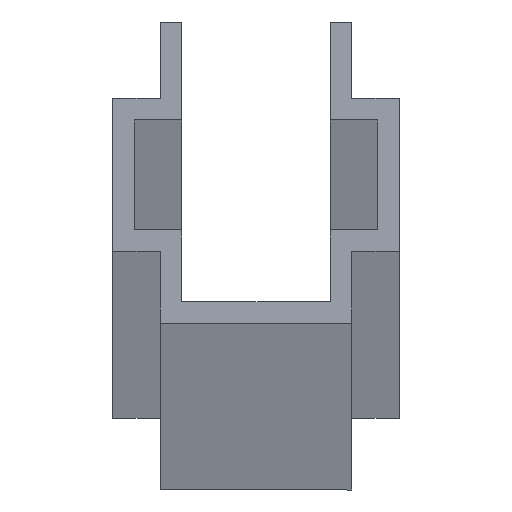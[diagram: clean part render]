
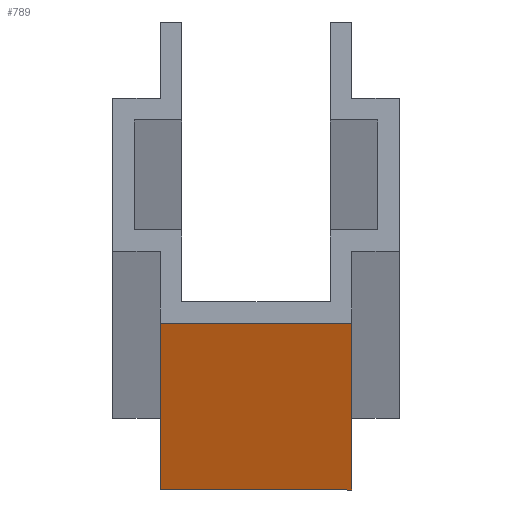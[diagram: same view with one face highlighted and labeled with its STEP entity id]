
A CAD part, top view. The second image highlights one B-rep face of the part: STEP entity #789.
In plain terms, the highlighted planar face has unit normal (0, -1, 0).
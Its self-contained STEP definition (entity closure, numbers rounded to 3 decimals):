
#733=CARTESIAN_POINT('',(2.,-6.3,2000.0));
#734=VERTEX_POINT('',#733);
#741=CARTESIAN_POINT('',(2.,-6.3,0.0));
#742=VERTEX_POINT('',#741);
#743=CARTESIAN_POINT('',(2.,-6.3,0.0));
#744=DIRECTION('',(0.0,0.0,1.0));
#745=VECTOR('',#744,2000.0);
#746=LINE('',#743,#745);
#747=EDGE_CURVE('',#742,#734,#746,.T.);
#759=CARTESIAN_POINT('',(2.,-6.3,0.0));
#760=DIRECTION('',(0.0,-1.0,0.0));
#761=DIRECTION('',(0.0,0.0,-1.0));
#762=AXIS2_PLACEMENT_3D('',#759,#760,#761);
#763=PLANE('',#762);
#764=CARTESIAN_POINT('',(-2.,-6.3,2000.0));
#765=VERTEX_POINT('',#764);
#766=CARTESIAN_POINT('',(2.,-6.3,2000.0));
#767=DIRECTION('',(-1.0,0.0,0.0));
#768=VECTOR('',#767,4.0);
#769=LINE('',#766,#768);
#770=EDGE_CURVE('',#734,#765,#769,.T.);
#771=ORIENTED_EDGE('',*,*,#770,.T.);
#772=CARTESIAN_POINT('',(-2.,-6.3,0.0));
#773=VERTEX_POINT('',#772);
#774=CARTESIAN_POINT('',(-2.,-6.3,0.0));
#775=DIRECTION('',(0.0,0.0,1.0));
#776=VECTOR('',#775,2000.0);
#777=LINE('',#774,#776);
#778=EDGE_CURVE('',#773,#765,#777,.T.);
#779=ORIENTED_EDGE('',*,*,#778,.F.);
#780=CARTESIAN_POINT('',(2.,-6.3,0.0));
#781=DIRECTION('',(-1.0,0.0,0.0));
#782=VECTOR('',#781,4.0);
#783=LINE('',#780,#782);
#784=EDGE_CURVE('',#742,#773,#783,.T.);
#785=ORIENTED_EDGE('',*,*,#784,.F.);
#786=ORIENTED_EDGE('',*,*,#747,.T.);
#787=EDGE_LOOP('',(#771,#779,#785,#786));
#788=FACE_OUTER_BOUND('',#787,.T.);
#789=ADVANCED_FACE('',(#788),#763,.T.);
